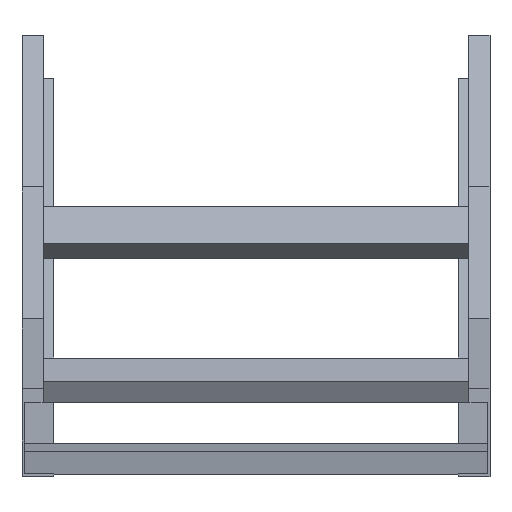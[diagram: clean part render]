
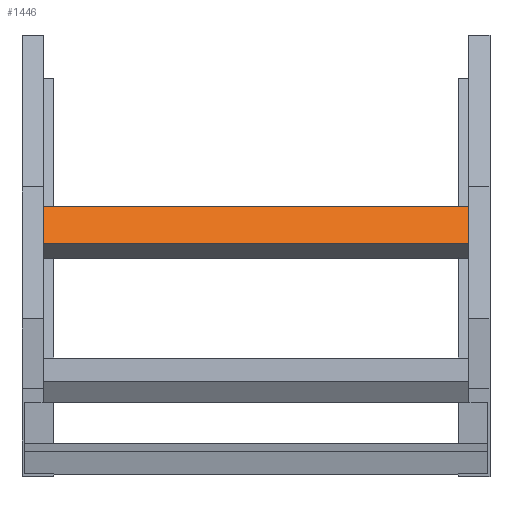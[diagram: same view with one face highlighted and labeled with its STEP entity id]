
A CAD part, top view. The second image highlights one B-rep face of the part: STEP entity #1446.
In plain terms, the highlighted planar face has unit normal (0, 0.643, 0.766) as drawn and (0, 1, 0) by its records, which use the part's own axes.
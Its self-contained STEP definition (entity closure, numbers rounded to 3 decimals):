
#15 = FACE_OUTER_BOUND ( 'NONE', #737, .T. ) ;
#39 = VERTEX_POINT ( 'NONE', #1460 ) ;
#47 = LINE ( 'NONE', #978, #367 ) ;
#58 = CARTESIAN_POINT ( 'NONE',  ( 198., 20., 20.25 ) ) ;
#133 = VERTEX_POINT ( 'NONE', #323 ) ;
#147 = LINE ( 'NONE', #293, #1207 ) ;
#279 = VECTOR ( 'NONE', #1262, 1000. ) ;
#293 = CARTESIAN_POINT ( 'NONE',  ( 198., 20., 20.25 ) ) ;
#305 = ORIENTED_EDGE ( 'NONE', *, *, #421, .T. ) ;
#323 = CARTESIAN_POINT ( 'NONE',  ( -198., 20., 20.25 ) ) ;
#367 = VECTOR ( 'NONE', #714, 1000. ) ;
#400 = DIRECTION ( 'NONE',  ( 0., -1., 0. ) ) ;
#405 = DIRECTION ( 'NONE',  ( -1., 0., 0. ) ) ;
#421 = EDGE_CURVE ( 'NONE', #752, #518, #47, .T. ) ;
#462 = CARTESIAN_POINT ( 'NONE',  ( -198., 20., 20.25 ) ) ;
#518 = VERTEX_POINT ( 'NONE', #882 ) ;
#546 = DIRECTION ( 'NONE',  ( 0., 0., -1. ) ) ;
#557 = DIRECTION ( 'NONE',  ( 0., 0., 1. ) ) ;
#679 = AXIS2_PLACEMENT_3D ( 'NONE', #1317, #400, #546 ) ;
#693 = EDGE_CURVE ( 'NONE', #752, #39, #1205, .T. ) ;
#714 = DIRECTION ( 'NONE',  ( -1., 0., 0. ) ) ;
#737 = EDGE_LOOP ( 'NONE', ( #904, #909, #1270, #305 ) ) ;
#752 = VERTEX_POINT ( 'NONE', #1383 ) ;
#876 = EDGE_CURVE ( 'NONE', #39, #133, #147, .T. ) ;
#882 = CARTESIAN_POINT ( 'NONE',  ( -198., 20., -20.25 ) ) ;
#904 = ORIENTED_EDGE ( 'NONE', *, *, #1269, .T. ) ;
#909 = ORIENTED_EDGE ( 'NONE', *, *, #876, .F. ) ;
#970 = LINE ( 'NONE', #462, #279 ) ;
#978 = CARTESIAN_POINT ( 'NONE',  ( 198., 20., -20.25 ) ) ;
#1205 = LINE ( 'NONE', #58, #1617 ) ;
#1207 = VECTOR ( 'NONE', #405, 1000. ) ;
#1262 = DIRECTION ( 'NONE',  ( 0., 0., 1. ) ) ;
#1269 = EDGE_CURVE ( 'NONE', #518, #133, #970, .T. ) ;
#1270 = ORIENTED_EDGE ( 'NONE', *, *, #693, .F. ) ;
#1317 = CARTESIAN_POINT ( 'NONE',  ( 198., 20., 20.25 ) ) ;
#1383 = CARTESIAN_POINT ( 'NONE',  ( 198., 20., -20.25 ) ) ;
#1446 = ADVANCED_FACE ( 'NONE', ( #15 ), #1570, .F. ) ;
#1460 = CARTESIAN_POINT ( 'NONE',  ( 198., 20., 20.25 ) ) ;
#1570 = PLANE ( 'NONE',  #679 ) ;
#1617 = VECTOR ( 'NONE', #557, 1000. ) ;
